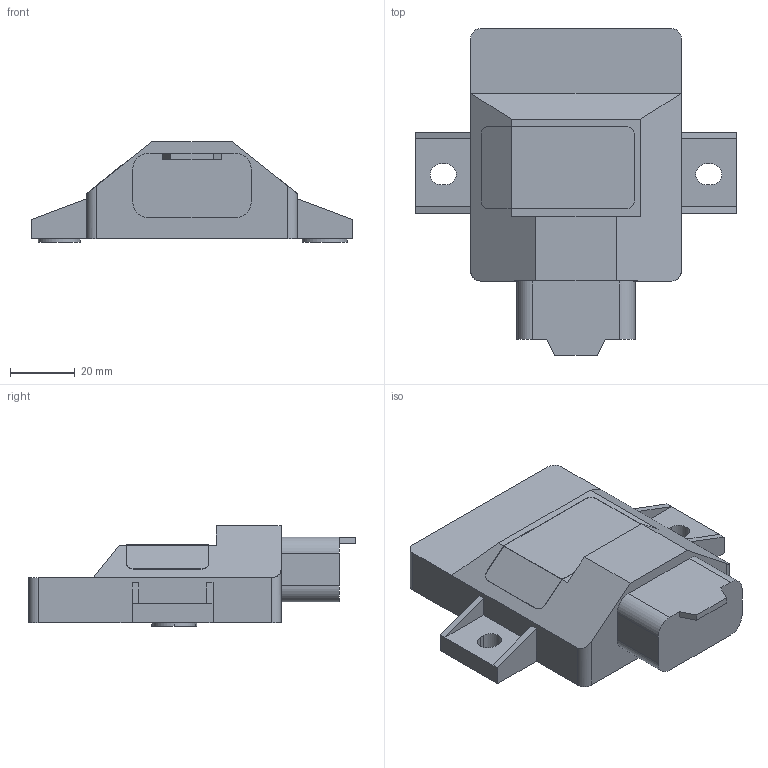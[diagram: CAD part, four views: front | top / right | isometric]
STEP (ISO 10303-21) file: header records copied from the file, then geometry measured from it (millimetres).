
FILE_DESCRIPTION((''),'2;1');
FILE_NAME('164000-1610X_ASM','2020-08-19T',('ib46307'),('YANMAR CO., LTD.'),'PRO/ENGINEER BY PARAMETRIC TECHNOLOGY CORPORATION, 2017170','PRO/ENGINEER BY PARAMETRIC TECHNOLOGY CORPORATION, 2017170','');
FILE_SCHEMA(('CONFIG_CONTROL_DESIGN'));
Length unit declared in the file: millimetre
Products named in the file (3): 1R9009-0005X; 164000-9106X-1; 164000-1610X_ASM
Assembly tree (2 placements, depth 2):
  164000-1610X_ASM
    1R9009-0005X
    164000-9106X-1
Bounding box: 99 x 101 x 31 mm (x, y, z)
Volume: 121590.1 mm3; surface area: 23021.3 mm2
Topology: 2 solids, 2 shells, 71 faces, 186 edges, 122 vertices
Faces by surface type: plane 51, cylinder 20
Entity records: 2273 total; most frequent: CARTESIAN_POINT 395, DIRECTION 374, ORIENTED_EDGE 372, EDGE_CURVE 186, VECTOR 146, LINE 146, VERTEX_POINT 122, AXIS2_PLACEMENT_3D 114
